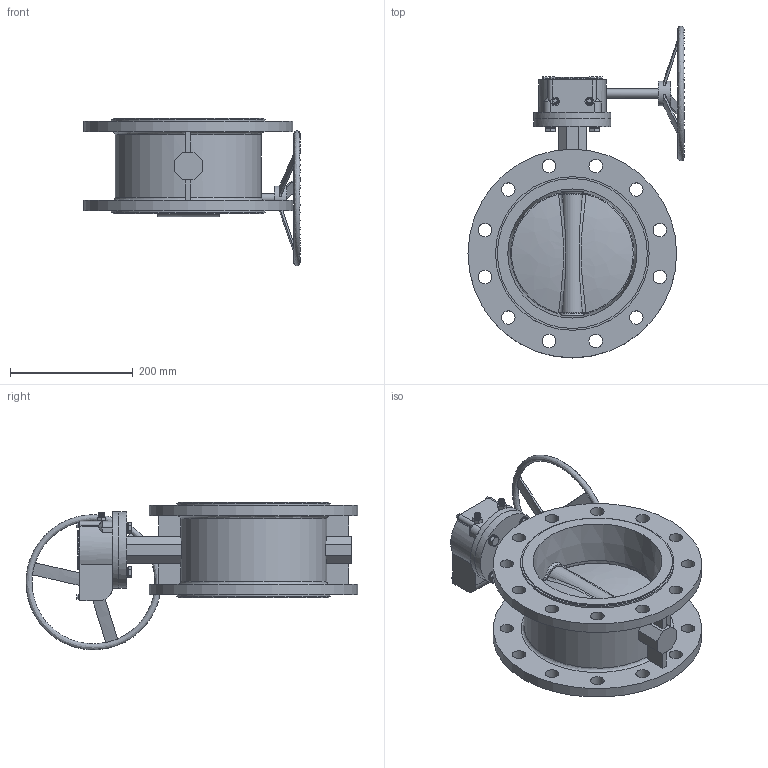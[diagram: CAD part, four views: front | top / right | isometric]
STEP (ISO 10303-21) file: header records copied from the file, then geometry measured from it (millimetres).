
FILE_DESCRIPTION (( 'STEP AP214' ), '1' );
FILE_NAME ('恦謫 邧楊擘評概 Fig.3226-204B-200-16.STEP', '2026-03-20T01:42:21', ( '' ), ( '' ), 'SwSTEP 2.0', 'SolidWorks 2024', '' );
FILE_SCHEMA (( 'AUTOMOTIVE_DESIGN' ));
Length unit declared in the file: millimetre
Products named in the file (1): 涡轮 双法兰蝶阀 Fig.3226-204B-200-16
Bounding box: 352 x 540.96 x 240.45 mm (x, y, z)
Surface area: 651506.1 mm2 (no closed solid volume)
Topology: 0 solids, 1 shells, 594 faces, 1539 edges, 1001 vertices
Faces by surface type: plane 295, bspline 161, cylinder 96, cone 42
Full cylindrical faces by diameter (mm): 6 x4, 10 x10, 10.9 x4, 12 x4, 15 x1, 16.9 x4, 20 x1, 22 x24, 40 x1, 64 x1, 83 x1, 125 x1, 125.02 x1, 244.4 x2, 250.4 x2, 340 x2
Entity records: 60155 total; most frequent: CARTESIAN_POINT 43609, ORIENTED_EDGE 2868, DIRECTION 1796, EDGE_CURVE 1445, VERTEX_POINT 974, EDGE_LOOP 789, FACE_OUTER_BOUND 648, VECTOR 630
